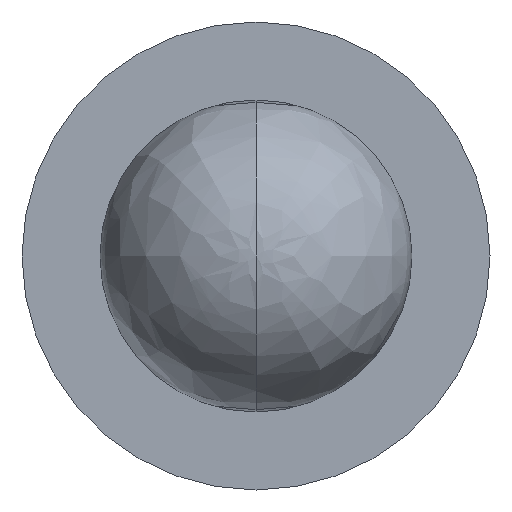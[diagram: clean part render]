
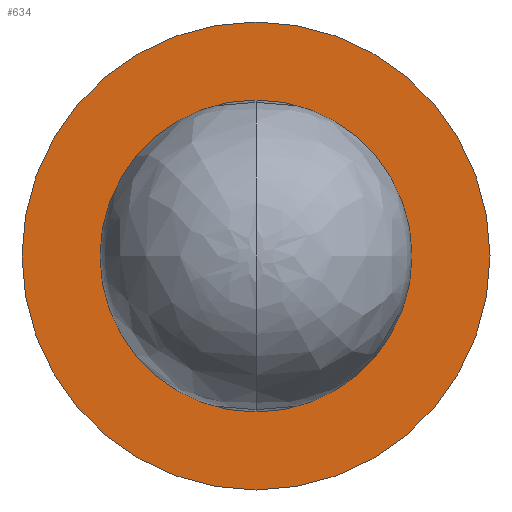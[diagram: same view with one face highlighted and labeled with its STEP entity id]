
A CAD part, front view. The second image highlights one B-rep face of the part: STEP entity #634.
In plain terms, the highlighted planar face has unit normal (0, -1, 0).
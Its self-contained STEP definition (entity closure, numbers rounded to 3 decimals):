
#187=CARTESIAN_POINT('',(0.,1.,0.));
#188=DIRECTION('',(0.,-1.,0.));
#189=DIRECTION('',(0.,0.,1.));
#190=AXIS2_PLACEMENT_3D('',#187,#188,#189);
#192=CARTESIAN_POINT('',(0.,1.,0.));
#193=DIRECTION('',(0.,1.,0.));
#194=DIRECTION('',(0.,0.,1.));
#195=AXIS2_PLACEMENT_3D('',#192,#193,#194);
#202=CARTESIAN_POINT('',(0.,1.,0.));
#203=DIRECTION('',(0.,1.,0.));
#204=DIRECTION('',(0.,0.,1.));
#205=AXIS2_PLACEMENT_3D('',#202,#203,#204);
#212=CARTESIAN_POINT('',(0.,1.,0.));
#213=DIRECTION('',(0.,-1.,0.));
#214=DIRECTION('',(0.,0.,1.));
#215=AXIS2_PLACEMENT_3D('',#212,#213,#214);
#218=CARTESIAN_POINT('',(0.,1.,1.5));
#220=VERTEX_POINT('',#218);
#221=CARTESIAN_POINT('',(0.,1.,1.));
#223=VERTEX_POINT('',#221);
#248=CARTESIAN_POINT('',(0.,1.,-1.5));
#250=VERTEX_POINT('',#248);
#251=CARTESIAN_POINT('',(0.,1.,-1.));
#252=VERTEX_POINT('',#251);
#619=CARTESIAN_POINT('',(0.,1.,0.));
#620=DIRECTION('',(0.,-1.,0.));
#621=DIRECTION('',(0.,0.,1.));
#622=AXIS2_PLACEMENT_3D('',#619,#620,#621);
#623=PLANE('',#622);
#624=ORIENTED_EDGE('',*,*,#280,.F.);
#625=ORIENTED_EDGE('',*,*,#298,.T.);
#626=EDGE_LOOP('',(#624,#625));
#627=FACE_OUTER_BOUND('',#626,.F.);
#629=ORIENTED_EDGE('',*,*,#628,.F.);
#631=ORIENTED_EDGE('',*,*,#630,.T.);
#632=EDGE_LOOP('',(#629,#631));
#633=FACE_BOUND('',#632,.F.);
#634=ADVANCED_FACE('',(#627,#633),#623,.T.);
#191=CIRCLE('',#190,1.5);
#196=CIRCLE('',#195,1.5);
#206=CIRCLE('',#205,1.);
#216=CIRCLE('',#215,1.);
#280=EDGE_CURVE('',#220,#250,#191,.T.);
#298=EDGE_CURVE('',#220,#250,#196,.T.);
#628=EDGE_CURVE('',#223,#252,#206,.T.);
#630=EDGE_CURVE('',#223,#252,#216,.T.);
